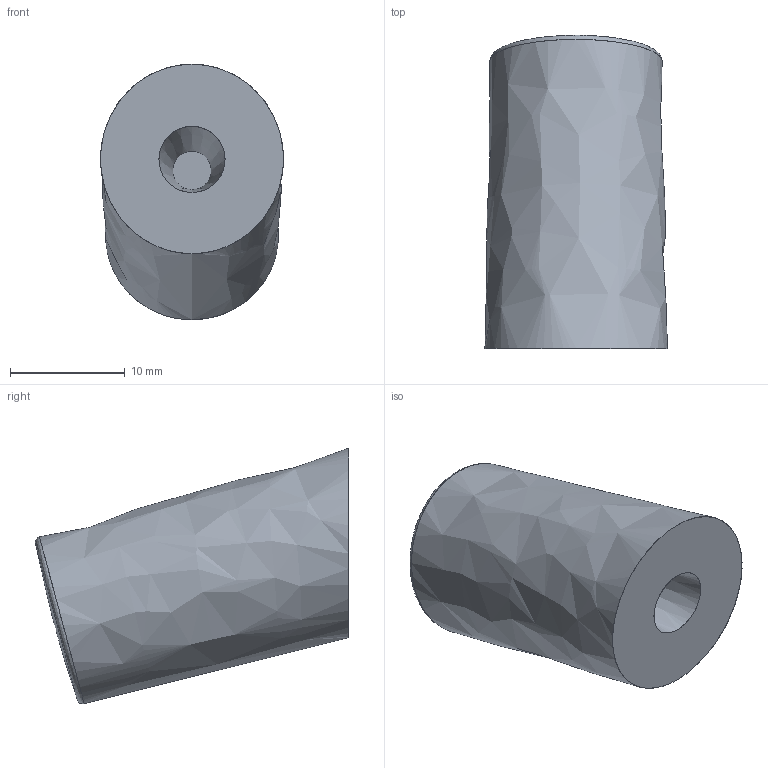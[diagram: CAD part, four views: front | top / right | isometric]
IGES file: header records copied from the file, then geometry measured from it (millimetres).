
Start section: C
Global section: file name: 8344-28.igs; native system: By Siemens PLM Incorporated; preprocessor: XPlus GENERIC/IGES 16.0.42; author: Author; organization: Title; date: 20230815.131237; units: millimetre
Bounding box: 15.91 x 27.25 x 22.23 mm (x, y, z)
Surface area: 1751.2 mm2 (no closed solid volume)
Topology: 0 solids, 0 shells, 6 faces, 25 edges, 23 vertices
Faces by surface type: bspline 6
